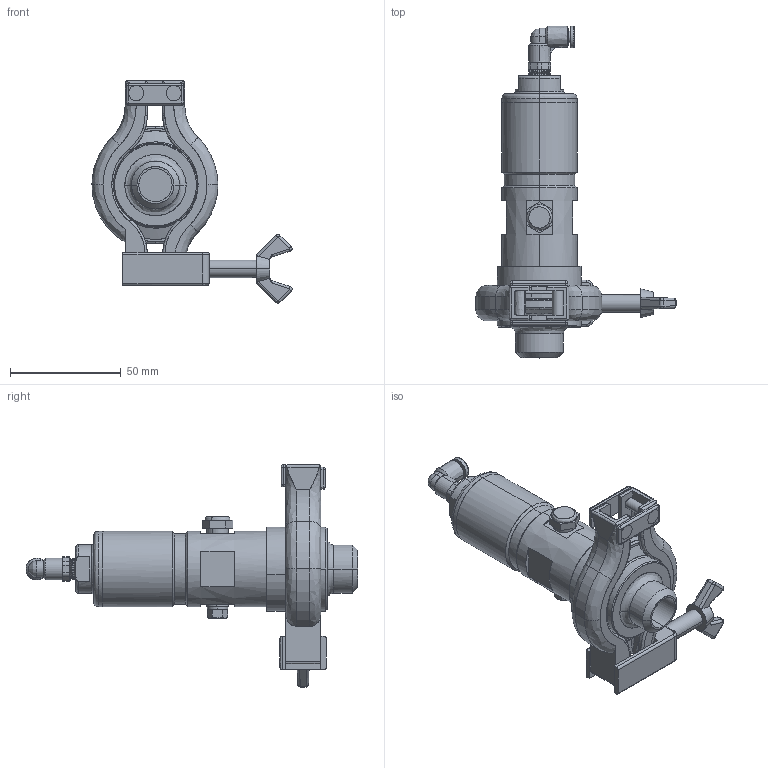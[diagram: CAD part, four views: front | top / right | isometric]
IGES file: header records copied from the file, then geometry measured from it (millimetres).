
Start section: SolidWorks IGES file using analytic representation for surfaces
Global section: file name: V:\WORK\08133\HP 寸法図\knocker\RKVS15-F\test_E74000C-000 RKVS15-F_defeature.IGS,15; native system: HSolidWorks 2018; preprocessor: SolidWorks 2018; author: n-udagawa; date: 230213.141331; units: millimetre
Bounding box: 90.5 x 150.1 x 100.52 mm (x, y, z)
Surface area: 34793.4 mm2 (no closed solid volume)
Topology: 0 solids, 0 shells, 491 faces, 7401 edges, 8648 vertices
Faces by surface type: bspline 489, revolution 2
